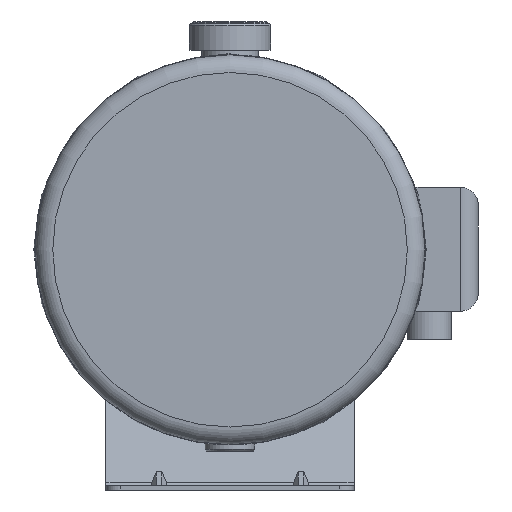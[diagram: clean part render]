
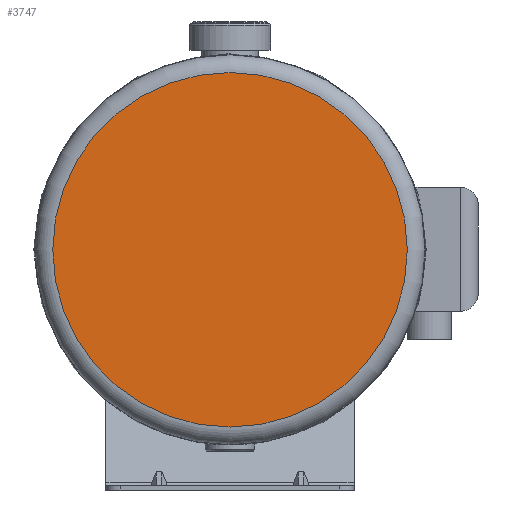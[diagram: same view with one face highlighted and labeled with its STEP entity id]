
A CAD part, left-side view. The second image highlights one B-rep face of the part: STEP entity #3747.
In plain terms, the highlighted planar face has unit normal (-1, 0, 0) as drawn and (1, 0, 0) by its records, which use the part's own axes.
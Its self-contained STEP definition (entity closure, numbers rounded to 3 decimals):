
#3747 = ADVANCED_FACE( '', ( #8925 ), #8926, .T. );
#8925 = FACE_OUTER_BOUND( '', #17156, .T. );
#8926 = PLANE( '', #17157 );
#17156 = EDGE_LOOP( '', ( #46765 ) );
#17157 = AXIS2_PLACEMENT_3D( '', #46766, #46767, #46768 );
#46765 = ORIENTED_EDGE( '', *, *, #63951, .T. );
#46766 = CARTESIAN_POINT( '', ( 378.93, 0., 0. ) );
#46767 = DIRECTION( '', ( 1., 0., 0. ) );
#46768 = DIRECTION( '', ( 0., 0., -1. ) );
#63951 = EDGE_CURVE( '', #71890, #71890, #71891, .T. );
#71890 = VERTEX_POINT( '', #84566 );
#71891 = CIRCLE( '', #84567, 100. );
#84566 = CARTESIAN_POINT( '', ( 378.93, 0., -100. ) );
#84567 = AXIS2_PLACEMENT_3D( '', #108182, #108183, #108184 );
#108182 = CARTESIAN_POINT( '', ( 378.93, 0., 0. ) );
#108183 = DIRECTION( '', ( 1., 0., 0. ) );
#108184 = DIRECTION( '', ( 0., 0., -1. ) );
